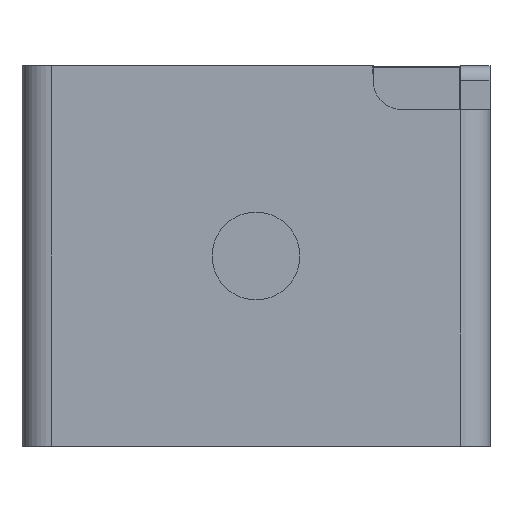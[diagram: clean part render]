
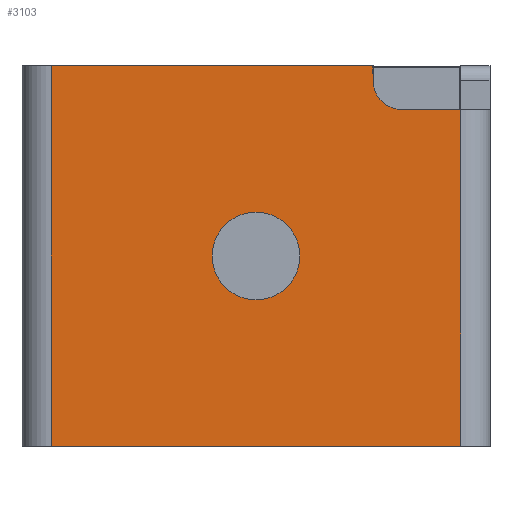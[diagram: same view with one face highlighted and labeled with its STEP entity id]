
A CAD part, front view. The second image highlights one B-rep face of the part: STEP entity #3103.
In plain terms, the highlighted planar face has unit normal (0, -1, 0).
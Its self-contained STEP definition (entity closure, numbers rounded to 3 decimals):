
#4 = AXIS2_PLACEMENT_3D ( 'NONE', #684, #402, #390 ) ;
#9 = VECTOR ( 'NONE', #2016, 1000. ) ;
#24 = VERTEX_POINT ( 'NONE', #3025 ) ;
#67 = CIRCLE ( 'NONE', #4, 1.5 ) ;
#174 = DIRECTION ( 'NONE',  ( 0., 0., -1. ) ) ;
#177 = ORIENTED_EDGE ( 'NONE', *, *, #2205, .F. ) ;
#256 = EDGE_CURVE ( 'NONE', #1844, #2764, #1746, .T. ) ;
#297 = LINE ( 'NONE', #2403, #3638 ) ;
#311 = EDGE_CURVE ( 'NONE', #2026, #2166, #2805, .T. ) ;
#338 = CARTESIAN_POINT ( 'NONE',  ( 6.034, -10.129, -1.493 ) ) ;
#390 = DIRECTION ( 'NONE',  ( -1., 0., 0. ) ) ;
#402 = DIRECTION ( 'NONE',  ( 0., -1., 0. ) ) ;
#413 = EDGE_LOOP ( 'NONE', ( #3547, #2280 ) ) ;
#522 = AXIS2_PLACEMENT_3D ( 'NONE', #1557, #1275, #1250 ) ;
#537 = ORIENTED_EDGE ( 'NONE', *, *, #1338, .F. ) ;
#637 = CARTESIAN_POINT ( 'NONE',  ( 5.034, -10.129, 0.007 ) ) ;
#684 = CARTESIAN_POINT ( 'NONE',  ( 1.034, -10.129, -6.493 ) ) ;
#755 = CARTESIAN_POINT ( 'NONE',  ( -0.466, -10.129, -6.493 ) ) ;
#768 = EDGE_CURVE ( 'NONE', #3008, #1407, #67, .T. ) ;
#794 = CARTESIAN_POINT ( 'NONE',  ( 5.034, -10.129, -0.493 ) ) ;
#819 = VERTEX_POINT ( 'NONE', #2489 ) ;
#850 = CIRCLE ( 'NONE', #1013, 1.5 ) ;
#1013 = AXIS2_PLACEMENT_3D ( 'NONE', #1493, #1483, #1469 ) ;
#1030 = DIRECTION ( 'NONE',  ( 1., 0., 0. ) ) ;
#1141 = CARTESIAN_POINT ( 'NONE',  ( 1.079, -10.129, -12.993 ) ) ;
#1210 = VERTEX_POINT ( 'NONE', #1776 ) ;
#1216 = DIRECTION ( 'NONE',  ( 0., 0., 1. ) ) ;
#1217 = EDGE_CURVE ( 'NONE', #1407, #3008, #850, .T. ) ;
#1250 = DIRECTION ( 'NONE',  ( 0., 0., 1. ) ) ;
#1275 = DIRECTION ( 'NONE',  ( 0., 1., 0. ) ) ;
#1285 = PLANE ( 'NONE',  #522 ) ;
#1317 = VECTOR ( 'NONE', #1216, 1000. ) ;
#1338 = EDGE_CURVE ( 'NONE', #1210, #2166, #2881, .T. ) ;
#1407 = VERTEX_POINT ( 'NONE', #3478 ) ;
#1439 = LINE ( 'NONE', #1494, #1317 ) ;
#1469 = DIRECTION ( 'NONE',  ( -1., 0., 0. ) ) ;
#1483 = DIRECTION ( 'NONE',  ( 0., -1., 0. ) ) ;
#1493 = CARTESIAN_POINT ( 'NONE',  ( 1.034, -10.129, -6.493 ) ) ;
#1494 = CARTESIAN_POINT ( 'NONE',  ( -5.966, -10.129, 0.007 ) ) ;
#1504 = FACE_BOUND ( 'NONE', #413, .T. ) ;
#1557 = CARTESIAN_POINT ( 'NONE',  ( -5.966, -10.129, 0.007 ) ) ;
#1741 = EDGE_LOOP ( 'NONE', ( #2730, #537, #177, #1847, #2445, #2013, #1926 ) ) ;
#1746 = LINE ( 'NONE', #3087, #1789 ) ;
#1776 = CARTESIAN_POINT ( 'NONE',  ( 5.034, -10.129, 0.007 ) ) ;
#1789 = VECTOR ( 'NONE', #3081, 1000. ) ;
#1844 = VERTEX_POINT ( 'NONE', #2458 ) ;
#1847 = ORIENTED_EDGE ( 'NONE', *, *, #1970, .F. ) ;
#1894 = EDGE_CURVE ( 'NONE', #1844, #2026, #297, .T. ) ;
#1903 = FACE_OUTER_BOUND ( 'NONE', #1741, .T. ) ;
#1926 = ORIENTED_EDGE ( 'NONE', *, *, #1894, .T. ) ;
#1970 = EDGE_CURVE ( 'NONE', #819, #24, #1439, .T. ) ;
#2013 = ORIENTED_EDGE ( 'NONE', *, *, #256, .F. ) ;
#2016 = DIRECTION ( 'NONE',  ( 1., 0., 0. ) ) ;
#2026 = VERTEX_POINT ( 'NONE', #338 ) ;
#2052 = AXIS2_PLACEMENT_3D ( 'NONE', #2179, #2162, #2153 ) ;
#2066 = CARTESIAN_POINT ( 'NONE',  ( 8.034, -10.129, -12.993 ) ) ;
#2086 = LINE ( 'NONE', #1141, #9 ) ;
#2153 = DIRECTION ( 'NONE',  ( 0., 0., 1. ) ) ;
#2162 = DIRECTION ( 'NONE',  ( 0., 1., 0. ) ) ;
#2166 = VERTEX_POINT ( 'NONE', #794 ) ;
#2169 = DIRECTION ( 'NONE',  ( -1., 0., 0. ) ) ;
#2179 = CARTESIAN_POINT ( 'NONE',  ( 6.034, -10.129, -0.493 ) ) ;
#2205 = EDGE_CURVE ( 'NONE', #24, #1210, #2736, .T. ) ;
#2280 = ORIENTED_EDGE ( 'NONE', *, *, #1217, .F. ) ;
#2403 = CARTESIAN_POINT ( 'NONE',  ( 5.034, -10.129, -1.493 ) ) ;
#2445 = ORIENTED_EDGE ( 'NONE', *, *, #3596, .T. ) ;
#2458 = CARTESIAN_POINT ( 'NONE',  ( 8.034, -10.129, -1.493 ) ) ;
#2489 = CARTESIAN_POINT ( 'NONE',  ( -5.966, -10.129, -12.993 ) ) ;
#2707 = CARTESIAN_POINT ( 'NONE',  ( -5.966, -10.129, 0.007 ) ) ;
#2730 = ORIENTED_EDGE ( 'NONE', *, *, #311, .T. ) ;
#2736 = LINE ( 'NONE', #2707, #3395 ) ;
#2764 = VERTEX_POINT ( 'NONE', #2066 ) ;
#2805 = CIRCLE ( 'NONE', #2052, 1. ) ;
#2881 = LINE ( 'NONE', #637, #3616 ) ;
#3008 = VERTEX_POINT ( 'NONE', #755 ) ;
#3025 = CARTESIAN_POINT ( 'NONE',  ( -5.966, -10.129, 0.007 ) ) ;
#3081 = DIRECTION ( 'NONE',  ( 0., 0., -1. ) ) ;
#3087 = CARTESIAN_POINT ( 'NONE',  ( 8.034, -10.129, 0.007 ) ) ;
#3103 = ADVANCED_FACE ( 'NONE', ( #1903, #1504 ), #1285, .F. ) ;
#3395 = VECTOR ( 'NONE', #1030, 1000. ) ;
#3478 = CARTESIAN_POINT ( 'NONE',  ( 2.534, -10.129, -6.493 ) ) ;
#3547 = ORIENTED_EDGE ( 'NONE', *, *, #768, .F. ) ;
#3596 = EDGE_CURVE ( 'NONE', #819, #2764, #2086, .T. ) ;
#3616 = VECTOR ( 'NONE', #174, 1000. ) ;
#3638 = VECTOR ( 'NONE', #2169, 1000. ) ;
